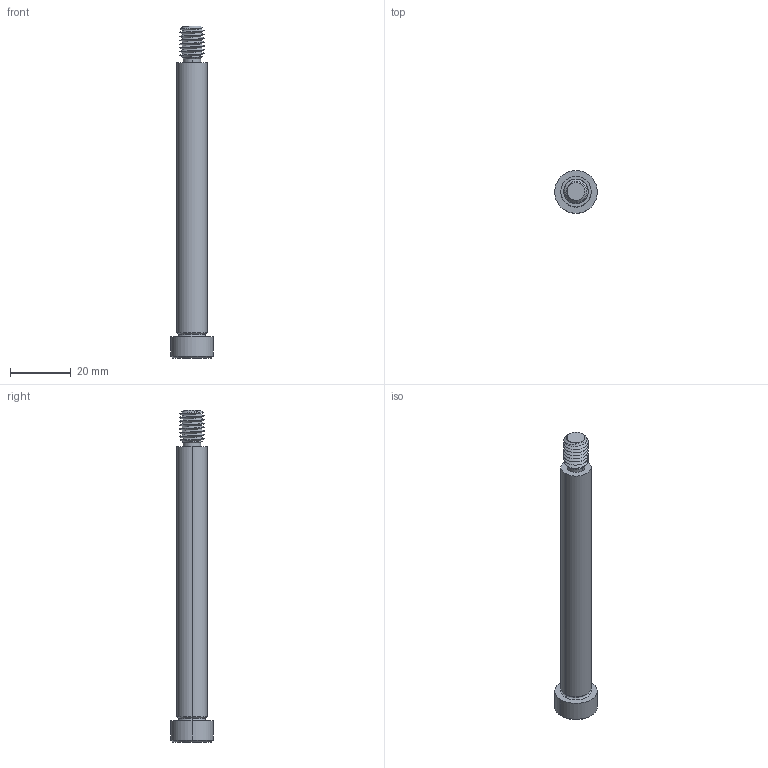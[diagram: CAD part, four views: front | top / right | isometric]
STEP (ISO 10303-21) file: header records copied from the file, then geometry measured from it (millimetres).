
FILE_DESCRIPTION (( 'STEP AP203' ), '1' );
FILE_NAME ('P0130.100-090-B8.step', '2021-11-09T21:59:34', ( '' ), ( '' ), 'SwSTEP 2.0', 'SolidWorks 2019', '' );
FILE_SCHEMA (( 'CONFIG_CONTROL_DESIGN' ));
Length unit declared in the file: millimetre
Products named in the file (1): P0130.100-090-B8
Bounding box: 14 x 14 x 109 mm (x, y, z)
Volume: 8436.4 mm3; surface area: 4005.4 mm2
Topology: 1 solids, 1 shells, 58 faces, 136 edges, 81 vertices
Faces by surface type: cylinder 21, plane 16, cone 15, torus 4, bspline 2
Entity records: 4214 total; most frequent: CARTESIAN_POINT 2911, ORIENTED_EDGE 268, DIRECTION 241, EDGE_CURVE 134, AXIS2_PLACEMENT_3D 97, VERTEX_POINT 81, EDGE_LOOP 61, FACE_OUTER_BOUND 58
